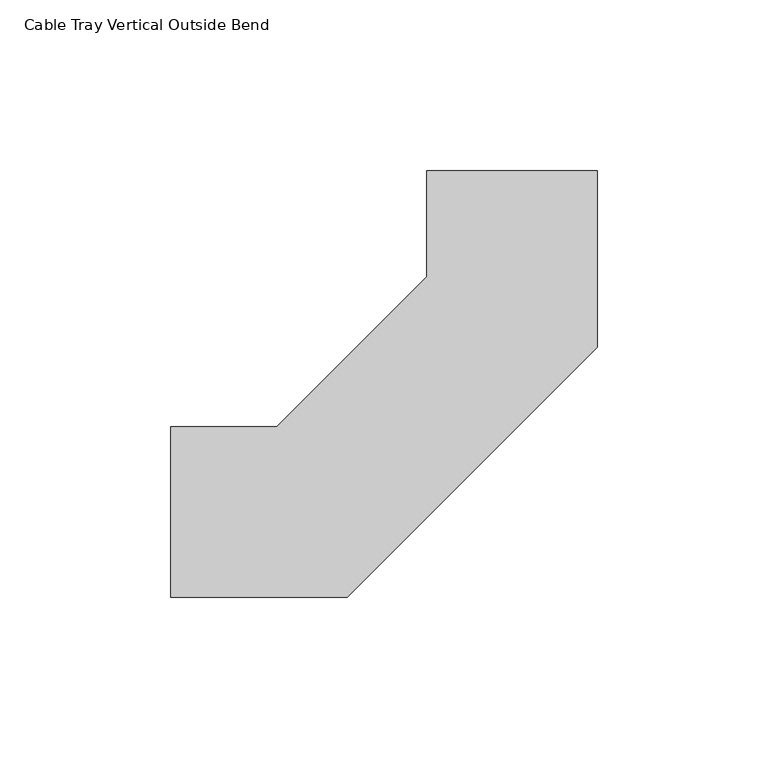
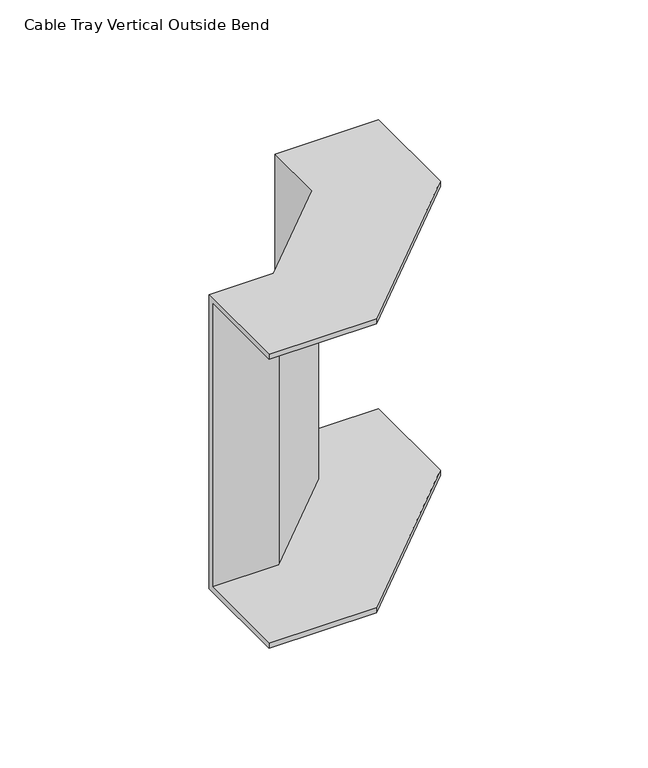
"""IFC4 building model written with IfcOpenShell, lengths in millimetres: cable carrier fitting geometry, Cable Tray Vertical Outside Bend : ELEC_ELV_CT_N2402."""

import ifcopenshell
import ifcopenshell.guid

model = None  # the IFC model being written
_history = None  # IfcOwnerHistory: only IFC2X3 demands one
_inside = {}  # id of a spatial element -> (the spatial element, [elements in it])
_under = {}  # id of a project, library or spatial element -> (it, [spatial elements below it])
_declared = {}  # id of a project -> (the project, [libraries it declares])
_typed = {}  # id of a type object -> (the type object, [elements of that type])
_made_of = {}  # id of a material, layer set ... -> (it, [elements and type objects made of it])


def new_model(schema):
    """Start an empty IFC model of exactly this schema.

    Asked for "IFC4X3", IfcOpenShell would pick the latest addendum, in which some entities
    have other attributes; the version numbers below select the first issue.
    IFC2X3 requires an IfcOwnerHistory on every rooted entity: one is made here for all.
    """
    global model, _history
    if schema == "IFC4X3":
        model = ifcopenshell.file(schema_version=(4, 3, 0, 0))
    else:
        model = ifcopenshell.file(schema=schema)
    _inside.clear()
    _under.clear()
    _declared.clear()
    _typed.clear()
    _made_of.clear()
    _history = None
    if model.schema == "IFC2X3":
        org = make("IfcOrganization", Name="unknown")
        user = make(
            "IfcPersonAndOrganization",
            ThePerson=make("IfcPerson", FamilyName="unknown"),
            TheOrganization=org,
        )
        app = make(
            "IfcApplication",
            ApplicationDeveloper=org,
            Version="unknown",
            ApplicationFullName="unknown",
            ApplicationIdentifier="unknown",
        )
        _history = make(
            "IfcOwnerHistory",
            OwningUser=user,
            OwningApplication=app,
            ChangeAction="ADDED",
            CreationDate=0,
        )
    return model


def make(cls, **values):
    """One entity of the class cls with the attributes given. An attribute that is None is left unset."""
    return model.create_entity(
        cls, **{name: value for name, value in values.items() if value is not None}
    )


def rooted(cls, **values):
    """An entity with a GlobalId (a new one), such as an element, a storey or a relation."""
    return make(cls, GlobalId=ifcopenshell.guid.new(), OwnerHistory=_history, **values)


def si_unit(unit_type, name, prefix=None):
    """IfcSIUnit, for example si_unit("LENGTHUNIT", "METRE", prefix="MILLI")."""
    return make("IfcSIUnit", UnitType=unit_type, Prefix=prefix, Name=name)


def assignment(units):
    """IfcUnitAssignment: the units of a project."""
    return None if units is None else make("IfcUnitAssignment", Units=units)


def point(xyz):
    """IfcCartesianPoint."""
    return None if xyz is None else make("IfcCartesianPoint", Coordinates=xyz)


def direction(xyz):
    """IfcDirection."""
    return None if xyz is None else make("IfcDirection", DirectionRatios=xyz)


def frame(location, z_axis=None, x_axis=None):
    """IfcAxis2Placement3D, a coordinate frame: its origin and axes. An axis left out is left unset."""
    return make(
        "IfcAxis2Placement3D",
        Location=point(location),
        Axis=direction(z_axis),
        RefDirection=direction(x_axis),
    )


def origin():
    """The frame at (0, 0, 0) with its axes left unset."""
    return frame((0.0, 0.0, 0.0))


def place(relative_to, where):
    """IfcLocalPlacement: puts the frame where relative to a parent placement (None: the world)."""
    return make(
        "IfcLocalPlacement", PlacementRelTo=relative_to, RelativePlacement=where
    )


def context(
    kind, dimensions, precision=None, world=None, true_north=None, identifier=None
):
    """IfcGeometricRepresentationContext, for example the 3D "Model" context."""
    return make(
        "IfcGeometricRepresentationContext",
        ContextIdentifier=identifier,
        ContextType=kind,
        CoordinateSpaceDimension=dimensions,
        Precision=precision,
        WorldCoordinateSystem=world,
        TrueNorth=true_north,
    )


def project(units=None, contexts=None):
    """IfcProject with its units and contexts."""
    return rooted(
        "IfcProject",
        Name="project",
        RepresentationContexts=contexts,
        UnitsInContext=assignment(units),
    )


def spatial(cls, under=None, at=None, **own):
    """A site, building, storey or space (cls), placed at a placement, below another one or the project."""
    s = rooted(cls, ObjectPlacement=at, **own)
    if under is not None:
        _under.setdefault(under.id(), (under, []))[1].append(s)
    return s


def faces_of(points, faces, orient=None, outer=None):
    """IfcFace entities. A face is a list of loops; a loop is a list of indices into points, from 0.

    orient and outer hold one flag for each loop. By default every Orientation is true, the
    first loop of a face is its IfcFaceOuterBound and the others are IfcFaceBound.
    """
    made = []
    for i, loops in enumerate(faces):
        bounds = []
        for j, loop in enumerate(loops):
            is_outer = j == 0 if outer is None else outer[i][j]
            bounds.append(
                make(
                    "IfcFaceOuterBound" if is_outer else "IfcFaceBound",
                    Bound=make("IfcPolyLoop", Polygon=[points[k] for k in loop]),
                    Orientation=True if orient is None else orient[i][j],
                )
            )
        made.append(make("IfcFace", Bounds=bounds))
    return made


def faceted_brep(points, faces, orient=None, outer=None, voids=None):
    """IfcFacetedBrep: a solid bounded by flat faces; with voids (closed shells), ...WithVoids."""
    shared = [point(p) for p in points]
    hull = make("IfcClosedShell", CfsFaces=faces_of(shared, faces, orient, outer))
    if voids is None:
        return make("IfcFacetedBrep", Outer=hull)
    return make(
        "IfcFacetedBrepWithVoids",
        Outer=hull,
        Voids=[
            make(cls, CfsFaces=faces_of(shared, fs, o, b)) for cls, fs, o, b in voids
        ],
    )


def shape(context_of_items, identifier, shape_type, items):
    """IfcShapeRepresentation: the items that make up one representation, for example the "Body"."""
    return make(
        "IfcShapeRepresentation",
        ContextOfItems=context_of_items,
        RepresentationIdentifier=identifier,
        RepresentationType=shape_type,
        Items=items,
    )


def source(mapping_origin, context_of_items, identifier, shape_type, items):
    """IfcRepresentationMap: a shape defined once, which mapped items show again and again."""
    return make(
        "IfcRepresentationMap",
        MappingOrigin=mapping_origin,
        MappedRepresentation=shape(context_of_items, identifier, shape_type, items),
    )


def transform(
    local_origin,
    x_axis=None,
    y_axis=None,
    z_axis=None,
    scale=None,
    scale2=None,
    scale3=None,
    uniform=True,
):
    """IfcCartesianTransformationOperator3D, or its non-uniform kind. x_axis, y_axis, z_axis: its Axis1, 2, 3."""
    if uniform:
        return make(
            "IfcCartesianTransformationOperator3D",
            Axis1=direction(x_axis),
            Axis2=direction(y_axis),
            LocalOrigin=point(local_origin),
            Scale=scale,
            Axis3=direction(z_axis),
        )
    return make(
        "IfcCartesianTransformationOperator3DnonUniform",
        Axis1=direction(x_axis),
        Axis2=direction(y_axis),
        LocalOrigin=point(local_origin),
        Scale=scale,
        Axis3=direction(z_axis),
        Scale2=scale2,
        Scale3=scale3,
    )


def mapped(mapping_source, mapping_target):
    """IfcMappedItem: shows the shape of a source again, moved by a transform."""
    return make(
        "IfcMappedItem", MappingSource=mapping_source, MappingTarget=mapping_target
    )


def made_of(thing, what):
    """Note that an element or type object is made of a material, layer set ...; save() writes the relation."""
    if what is not None:
        _made_of.setdefault(what.id(), (what, []))[1].append(thing)
    return thing


def element(
    cls,
    number,
    at=None,
    inside=None,
    cuts=None,
    type_object=None,
    material=None,
    context=None,
    identifier="Body",
    shape_type=None,
    held_by="IfcProductDefinitionShape",
    body=None,
    shapes=None,
    **own,
):
    """One element of the class cls, such as IfcWall. Its Tag is "e" and its number.

    at: its placement. inside: the storey or other place that contains it. cuts: it is an
    opening in that element (IfcRelVoidsElement). A single representation is given by context,
    identifier, shape_type and body (its items); several are given by shapes. held_by: the class
    of the entity that holds the representations. save() writes the other relations.
    """
    e = rooted(cls, Tag="e%d" % number, ObjectPlacement=at, **own)
    if body is not None:
        shapes = [shape(context, identifier, shape_type, body)]
    if shapes is not None:
        e.Representation = make(held_by, Representations=shapes)
    if inside is not None:
        _inside.setdefault(inside.id(), (inside, []))[1].append(e)
    if cuts is not None:
        rooted(
            "IfcRelVoidsElement", RelatingBuildingElement=cuts, RelatedOpeningElement=e
        )
    if type_object is not None:
        _typed.setdefault(type_object.id(), (type_object, []))[1].append(e)
    return made_of(e, material)


def aggregate(whole, parts):
    """IfcRelAggregates: a whole, such as a stair, and the parts it consists of."""
    return rooted("IfcRelAggregates", RelatingObject=whole, RelatedObjects=parts)


def save(model, path):
    """Write the relations noted so far, then the file.

    IfcRelAggregates (storeys below a building ...), IfcRelContainedInSpatialStructure (elements
    in a storey), IfcRelDefinesByType, IfcRelAssociatesMaterial and IfcRelDeclares: one each for
    every whole, place, type object, material and project.
    """
    for whole, parts in _under.values():
        aggregate(whole, parts)
    for where, things in _inside.values():
        rooted(
            "IfcRelContainedInSpatialStructure",
            RelatedElements=things,
            RelatingStructure=where,
        )
    for kind, things in _typed.values():
        rooted("IfcRelDefinesByType", RelatedObjects=things, RelatingType=kind)
    for what, things in _made_of.values():
        rooted("IfcRelAssociatesMaterial", RelatedObjects=things, RelatingMaterial=what)
    for by, libraries in _declared.values():
        rooted("IfcRelDeclares", RelatingContext=by, RelatedDefinitions=libraries)
    model.write(path)


def cable_tray_vertical_outside_bend_ed6eee40(model_context):
    return source(origin(), model_context, "Body", "Brep", [
        faceted_brep([(-100.0014107, -25.0, 75.0), (-100.0014107, 25.0, 75.0), (-100.0014107, 25.0, -75.0), (-100.0014107, -25.0, -75.0), (-100.0014107, -25.0, -72.46), (-100.0014107, 22.46, -72.46), (-100.0014107, 22.46, 72.46), (-100.0014107, -25.0, 72.46), (24.9985893, 100.0017634, 75.0), (24.9985893, 100.0017634, 72.46), (-22.4614107, 100.0010939, 72.46), (-22.4614107, 100.0010939, -72.46), (24.9985893, 100.0017634, -72.46), (24.9985893, 100.0017634, -75.0), (-25.0014107, 100.001058, -75.0), (-25.0014107, 100.001058, 75.0), (-48.2241989, -25.0, 75.0), (24.9993197, 48.2245516, 75.0), (-25.0009725, 68.934731, 75.0), (-68.9350836, 25.0, 75.0), (-68.9350836, 25.0, -75.0), (-25.0009725, 68.934731, -75.0), (24.9993197, 48.2245516, -75.0), (-48.2241989, -25.0, -75.0), (-48.2241989, -25.0, -72.46), (24.9993197, 48.2245516, -72.46), (-22.4609576, 67.8826539, -72.46), (-67.8829707, 22.46, -72.46), (-67.8829707, 22.46, 72.46), (-22.4609576, 67.8826539, 72.46), (24.9993197, 48.2245516, 72.46), (-48.2241989, -25.0, 72.46)], [[[0, 1, 2, 3, 4, 5, 6, 7]], [[8, 9, 10, 11, 12, 13, 14, 15]], [[1, 0, 16, 17, 8, 15, 18, 19]], [[2, 1, 19, 20]], [[3, 2, 20, 21, 14, 13, 22, 23]], [[4, 3, 23, 24]], [[5, 4, 24, 25, 12, 11, 26, 27]], [[6, 5, 27, 28]], [[7, 6, 28, 29, 10, 9, 30, 31]], [[0, 7, 31, 16]], [[20, 19, 18, 21]], [[24, 23, 22, 25]], [[28, 27, 26, 29]], [[16, 31, 30, 17]], [[21, 18, 15, 14]], [[25, 22, 13, 12]], [[29, 26, 11, 10]], [[17, 30, 9, 8]]]),
    ])


if __name__ == "__main__":
    model = new_model("IFC4")
    model_context = context("Model", 3, world=origin())
    ifc_project = project(units=[si_unit("LENGTHUNIT", "METRE", prefix="MILLI")], contexts=[model_context])
    site = spatial("IfcSite", under=ifc_project)
    building = spatial("IfcBuilding", under=site)
    placement = place(None, origin())
    cable_tray_vertical_outside_bend_shape = cable_tray_vertical_outside_bend_ed6eee40(model_context)
    element("IfcCableCarrierFitting", 1, ObjectType="Cable Tray Vertical Outside Bend : ELEC_ELV_CT_N2402", at=placement, inside=building, context=model_context, shape_type="MappedRepresentation", body=[
        mapped(cable_tray_vertical_outside_bend_shape, transform((0.0, 0.0, 0.0), x_axis=(1.0, 0.0, 0.0), y_axis=(0.0, 1.0, 0.0), z_axis=(0.0, 0.0, 1.0))),
    ])
    save(model, "model.ifc")
